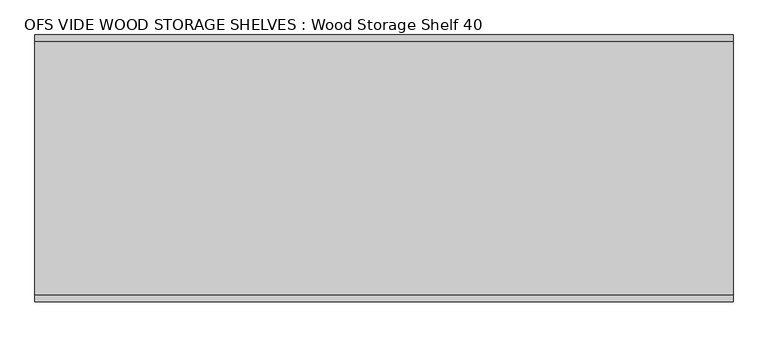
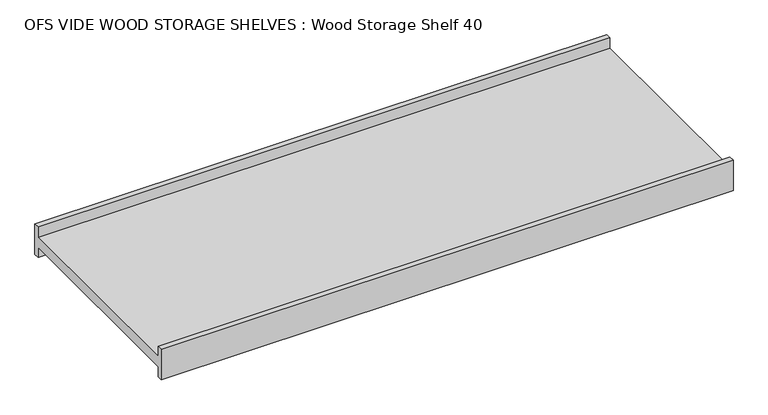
"""IFC4 building model written with IfcOpenShell, lengths in millimetres: furniture geometry, OFS VIDE WOOD STORAGE SHELVES : Wood Storage Shelf 40."""

from ifc_helpers import new_model, si_unit, frame, origin, place, context, project, spatial, polyline, outline, extrude, source, transform, mapped, element, save


def ofs_vide_wood_storage_shelves_wood_storage_shelf_40_a35b5033(model_context):
    return source(origin(), model_context, "Body", "SweptSolid", [
        extrude(outline(polyline([(184.15, 130.175), (193.675, 130.175), (193.675, 73.025), (184.15, 73.025), (184.15, 92.075), (-184.15, 92.075), (-184.15, 73.025), (-193.675, 73.025), (-193.675, 130.175), (-184.15, 130.175), (-184.15, 111.125), (184.15, 111.125), (184.15, 130.175)])), frame((-506.4125, 0.0, 0.0), z_axis=(1.0, 0.0, 0.0), x_axis=(0.0, 1.0, 0.0)), (0.0, 0.0, 1.0), 1012.825),
    ])


if __name__ == "__main__":
    model = new_model("IFC4")
    model_context = context("Model", 3, world=origin())
    ifc_project = project(units=[si_unit("LENGTHUNIT", "METRE", prefix="MILLI")], contexts=[model_context])
    site = spatial("IfcSite", under=ifc_project)
    building = spatial("IfcBuilding", under=site)
    placement = place(None, origin())
    ofs_vide_wood_storage_shelves_wood_storage_shelf_40_shape = ofs_vide_wood_storage_shelves_wood_storage_shelf_40_a35b5033(model_context)
    element("IfcFurniture", 1, ObjectType="OFS VIDE WOOD STORAGE SHELVES : Wood Storage Shelf 40", at=placement, inside=building, context=model_context, shape_type="MappedRepresentation", body=[
        mapped(ofs_vide_wood_storage_shelves_wood_storage_shelf_40_shape, transform((0.0, 0.0, 0.0), x_axis=(1.0, 0.0, 0.0), y_axis=(0.0, 1.0, 0.0), z_axis=(0.0, 0.0, 1.0))),
    ])
    save(model, "model.ifc")
